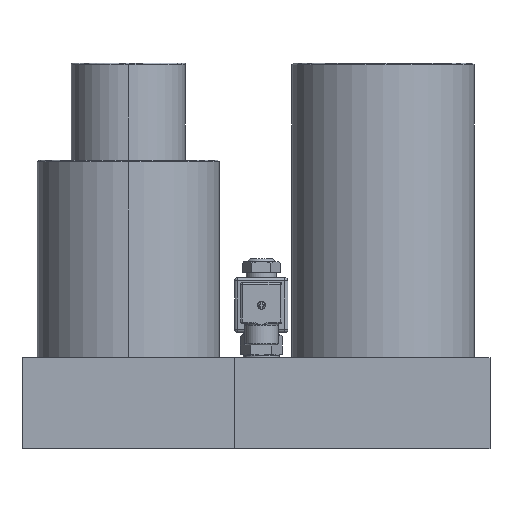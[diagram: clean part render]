
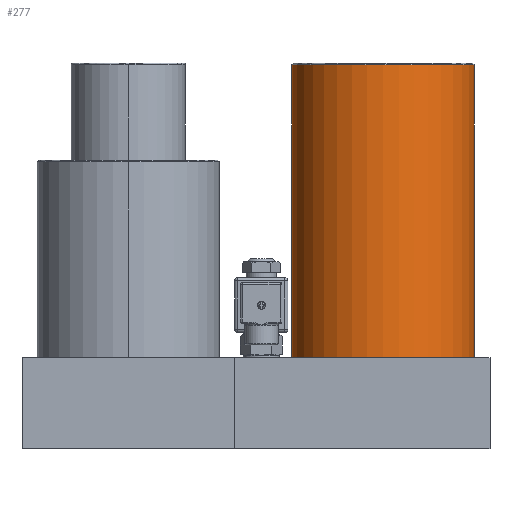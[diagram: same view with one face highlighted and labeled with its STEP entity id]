
A CAD part, front view. The second image highlights one B-rep face of the part: STEP entity #277.
In plain terms, the highlighted cylindrical face has radius 60 mm (diameter 120 mm), a partial arc.
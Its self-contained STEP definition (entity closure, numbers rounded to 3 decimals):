
#161=CARTESIAN_POINT('Vertex',(107.5,0.,253.)) ;
#164=CARTESIAN_POINT('Axis2P3D Location',(167.5,0.,253.)) ;
#168=CARTESIAN_POINT('Vertex',(227.5,0.,253.)) ;
#209=CARTESIAN_POINT('Vertex',(107.5,0.,60.)) ;
#211=CARTESIAN_POINT('Vertex',(227.5,0.,60.)) ;
#214=CARTESIAN_POINT('Axis2P3D Location',(167.5,0.,60.)) ;
#224=CARTESIAN_POINT('Axis2P3D Location',(167.5,0.,203.)) ;
#229=CARTESIAN_POINT('Line Origine',(107.5,0.,222.)) ;
#233=CARTESIAN_POINT('Vertex',(107.5,0.,190.)) ;
#236=CARTESIAN_POINT('Line Origine',(107.5,0.,222.)) ;
#240=CARTESIAN_POINT('Vertex',(107.5,0.,111.)) ;
#243=CARTESIAN_POINT('Line Origine',(107.5,0.,222.)) ;
#248=CARTESIAN_POINT('Line Origine',(227.5,0.,222.)) ;
#252=CARTESIAN_POINT('Vertex',(227.5,0.,111.)) ;
#255=CARTESIAN_POINT('Line Origine',(227.5,0.,222.)) ;
#259=CARTESIAN_POINT('Vertex',(227.5,0.,190.)) ;
#262=CARTESIAN_POINT('Line Origine',(227.5,0.,222.)) ;
#165=DIRECTION('Axis2P3D Direction',(0.,0.,1.)) ;
#215=DIRECTION('Axis2P3D Direction',(0.,0.,-1.)) ;
#225=DIRECTION('Axis2P3D Direction',(0.,0.,1.)) ;
#226=DIRECTION('Axis2P3D XDirection',(1.,0.,0.)) ;
#230=DIRECTION('Vector Direction',(0.,0.,1.)) ;
#237=DIRECTION('Vector Direction',(0.,0.,1.)) ;
#244=DIRECTION('Vector Direction',(0.,0.,1.)) ;
#249=DIRECTION('Vector Direction',(0.,0.,1.)) ;
#256=DIRECTION('Vector Direction',(0.,0.,1.)) ;
#263=DIRECTION('Vector Direction',(0.,0.,1.)) ;
#166=AXIS2_PLACEMENT_3D('Circle Axis2P3D',#164,#165,$) ;
#216=AXIS2_PLACEMENT_3D('Circle Axis2P3D',#214,#215,$) ;
#227=AXIS2_PLACEMENT_3D('Cylinder Axis2P3D',#224,#225,#226) ;
#268=ORIENTED_EDGE('',*,*,#235,.F.) ;
#269=ORIENTED_EDGE('',*,*,#242,.F.) ;
#270=ORIENTED_EDGE('',*,*,#247,.T.) ;
#271=ORIENTED_EDGE('',*,*,#218,.F.) ;
#272=ORIENTED_EDGE('',*,*,#254,.F.) ;
#273=ORIENTED_EDGE('',*,*,#261,.T.) ;
#274=ORIENTED_EDGE('',*,*,#266,.T.) ;
#275=ORIENTED_EDGE('',*,*,#170,.F.) ;
#231=VECTOR('Line Direction',#230,1.) ;
#238=VECTOR('Line Direction',#237,1.) ;
#245=VECTOR('Line Direction',#244,1.) ;
#250=VECTOR('Line Direction',#249,1.) ;
#257=VECTOR('Line Direction',#256,1.) ;
#264=VECTOR('Line Direction',#263,1.) ;
#277=ADVANCED_FACE('',(#276),#228,.T.) ;
#167=CIRCLE('generated circle',#166,60.) ;
#217=CIRCLE('generated circle',#216,60.) ;
#228=CYLINDRICAL_SURFACE('generated cylinder',#227,60.) ;
#170=EDGE_CURVE('',#162,#169,#167,.T.) ;
#218=EDGE_CURVE('',#212,#210,#217,.T.) ;
#235=EDGE_CURVE('',#234,#162,#232,.T.) ;
#242=EDGE_CURVE('',#241,#234,#239,.T.) ;
#247=EDGE_CURVE('',#241,#210,#246,.F.) ;
#254=EDGE_CURVE('',#253,#212,#251,.F.) ;
#261=EDGE_CURVE('',#253,#260,#258,.T.) ;
#266=EDGE_CURVE('',#260,#169,#265,.T.) ;
#267=EDGE_LOOP('',(#268,#269,#270,#271,#272,#273,#274,#275)) ;
#276=FACE_OUTER_BOUND('',#267,.T.) ;
#232=LINE('Line',#229,#231) ;
#239=LINE('Line',#236,#238) ;
#246=LINE('Line',#243,#245) ;
#251=LINE('Line',#248,#250) ;
#258=LINE('Line',#255,#257) ;
#265=LINE('Line',#262,#264) ;
#162=VERTEX_POINT('',#161) ;
#169=VERTEX_POINT('',#168) ;
#210=VERTEX_POINT('',#209) ;
#212=VERTEX_POINT('',#211) ;
#234=VERTEX_POINT('',#233) ;
#241=VERTEX_POINT('',#240) ;
#253=VERTEX_POINT('',#252) ;
#260=VERTEX_POINT('',#259) ;
